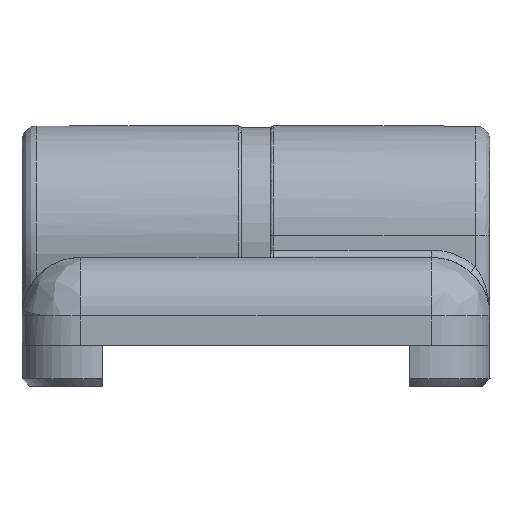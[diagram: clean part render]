
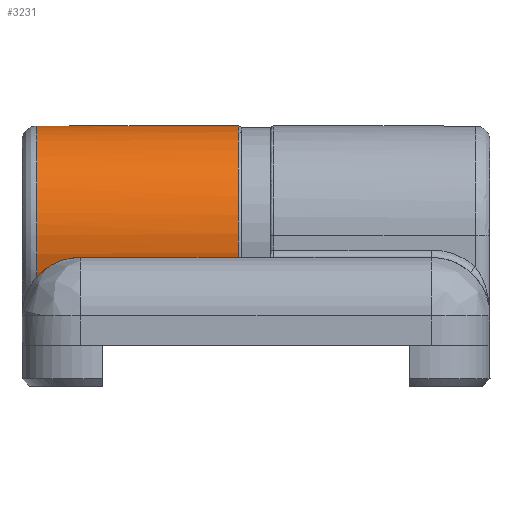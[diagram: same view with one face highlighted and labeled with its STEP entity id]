
A CAD part, left-side view. The second image highlights one B-rep face of the part: STEP entity #3231.
In plain terms, the highlighted cylindrical face has radius 7.5 mm (diameter 15 mm), a partial arc.
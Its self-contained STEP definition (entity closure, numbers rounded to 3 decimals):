
#244 = DIRECTION ( 'NONE',  ( 0., 0., 1. ) ) ;
#375 = CARTESIAN_POINT ( 'NONE',  ( 6.667, -66.151, -14.778 ) ) ;
#386 = CARTESIAN_POINT ( 'NONE',  ( -5.061, -74.51, -14.778 ) ) ;
#422 = CARTESIAN_POINT ( 'NONE',  ( -1.215, -78.928, -15.256 ) ) ;
#760 = VERTEX_POINT ( 'NONE', #4417 ) ;
#1127 = CARTESIAN_POINT ( 'NONE',  ( -5.442, -72.148, -14.778 ) ) ;
#1155 = VERTEX_POINT ( 'NONE', #1801 ) ;
#1162 = CARTESIAN_POINT ( 'NONE',  ( -5.439, -72.421, -14.778 ) ) ;
#1192 = CARTESIAN_POINT ( 'NONE',  ( 4.021, -64.843, -14.778 ) ) ;
#1205 = ORIENTED_EDGE ( 'NONE', *, *, #3482, .T. ) ;
#1206 = CARTESIAN_POINT ( 'NONE',  ( -4.993, -74.705, -14.778 ) ) ;
#1234 = CARTESIAN_POINT ( 'NONE',  ( 0.296, -79.446, -15.511 ) ) ;
#1635 = DIRECTION ( 'NONE',  ( 0., 0., -1. ) ) ;
#1801 = CARTESIAN_POINT ( 'NONE',  ( 9.558, -72.148, -0.978 ) ) ;
#1811 = AXIS2_PLACEMENT_3D ( 'NONE', #5293, #244, #4774 ) ;
#1864 = B_SPLINE_CURVE_WITH_KNOTS ( 'NONE', 3,
 ( #1127, #9087, #1162, #6682, #1967, #7497, #2743, #8282, #3565, #9125, #4333, #9884, #5114, #386, #5916, #1206, #6716, #2001, #7534, #2779, #8319, #3596, #9169, #4374, #9913, #5148, #422, #5953, #1234, #6763, #2033, #7566, #2817 ),
 .UNSPECIFIED., .F., .F.,
 ( 4, 1, 1, 1, 1, 1, 1, 1, 1, 1, 1, 1, 1, 1, 1, 1, 1, 1, 1, 1, 1, 1, 1, 1, 1, 1, 1, 1, 1, 1, 4 ),
 ( 0., 0.024, 0.046, 0.068, 0.088, 0.107, 0.125, 0.142, 0.157, 0.171, 0.184, 0.196, 0.207, 0.216, 0.224, 0.232, 0.237, 0.242, 0.245, 0.248, 0.249, 0.328, 0.411, 0.498, 0.616, 0.748, 0.807, 0.874, 0.907, 0.949, 1. ),
 .UNSPECIFIED. ) ;
#1868 = CARTESIAN_POINT ( 'NONE',  ( 1.858, -79.645, -15.778 ) ) ;
#1967 = CARTESIAN_POINT ( 'NONE',  ( -5.402, -72.933, -14.778 ) ) ;
#1990 = CARTESIAN_POINT ( 'NONE',  ( 1.076, -64.648, -14.778 ) ) ;
#2001 = CARTESIAN_POINT ( 'NONE',  ( -4.941, -74.845, -14.778 ) ) ;
#2033 = CARTESIAN_POINT ( 'NONE',  ( 1.304, -79.618, -15.683 ) ) ;
#2225 = CARTESIAN_POINT ( 'NONE',  ( -5.442, -72.148, -14.778 ) ) ;
#2391 = EDGE_LOOP ( 'NONE', ( #7451, #5454, #3341, #1205, #4293 ) ) ;
#2405 = AXIS2_PLACEMENT_3D ( 'NONE', #6340, #1635, #7163 ) ;
#2732 = CARTESIAN_POINT ( 'NONE',  ( 9.558, -72.148, -14.778 ) ) ;
#2743 = CARTESIAN_POINT ( 'NONE',  ( -5.34, -73.386, -14.778 ) ) ;
#2767 = CARTESIAN_POINT ( 'NONE',  ( -1.719, -65.595, -14.778 ) ) ;
#2779 = CARTESIAN_POINT ( 'NONE',  ( -4.906, -74.932, -14.778 ) ) ;
#2817 = CARTESIAN_POINT ( 'NONE',  ( 1.858, -79.645, -15.778 ) ) ;
#2871 = VECTOR ( 'NONE', #10029, 1000. ) ;
#3231 = ADVANCED_FACE ( 'NONE', ( #3878 ), #9952, .T. ) ;
#3341 = ORIENTED_EDGE ( 'NONE', *, *, #6442, .T. ) ;
#3482 = EDGE_CURVE ( 'NONE', #1155, #7758, #6584, .T. ) ;
#3552 = CARTESIAN_POINT ( 'NONE',  ( 9.558, -71.166, -14.778 ) ) ;
#3565 = CARTESIAN_POINT ( 'NONE',  ( -5.263, -73.779, -14.778 ) ) ;
#3585 = CARTESIAN_POINT ( 'NONE',  ( -3.94, -67.539, -14.778 ) ) ;
#3596 = CARTESIAN_POINT ( 'NONE',  ( -4.776, -75.253, -14.778 ) ) ;
#3878 = FACE_OUTER_BOUND ( 'NONE', #2391, .T. ) ;
#4293 = ORIENTED_EDGE ( 'NONE', *, *, #7991, .T. ) ;
#4323 = CARTESIAN_POINT ( 'NONE',  ( 9.363, -70.185, -14.778 ) ) ;
#4333 = CARTESIAN_POINT ( 'NONE',  ( -5.18, -74.115, -14.778 ) ) ;
#4362 = CARTESIAN_POINT ( 'NONE',  ( -5.247, -70.185, -14.778 ) ) ;
#4374 = CARTESIAN_POINT ( 'NONE',  ( -3.977, -76.638, -14.845 ) ) ;
#4417 = CARTESIAN_POINT ( 'NONE',  ( 1.858, -79.645, -15.778 ) ) ;
#4774 = DIRECTION ( 'NONE',  ( 1., 0., 0. ) ) ;
#5023 = CARTESIAN_POINT ( 'NONE',  ( 1.858, -79.645, -0.978 ) ) ;
#5104 = CARTESIAN_POINT ( 'NONE',  ( 8.055, -67.539, -14.778 ) ) ;
#5114 = CARTESIAN_POINT ( 'NONE',  ( -5.099, -74.393, -14.778 ) ) ;
#5142 = CARTESIAN_POINT ( 'NONE',  ( -5.442, -72.148, -14.778 ) ) ;
#5148 = CARTESIAN_POINT ( 'NONE',  ( -2.26, -78.338, -15.087 ) ) ;
#5257 = VERTEX_POINT ( 'NONE', #9027 ) ;
#5293 = CARTESIAN_POINT ( 'NONE',  ( 2.058, -72.148, 16.222 ) ) ;
#5454 = ORIENTED_EDGE ( 'NONE', *, *, #7591, .T. ) ;
#5906 = CARTESIAN_POINT ( 'NONE',  ( 5.835, -65.595, -14.778 ) ) ;
#5916 = CARTESIAN_POINT ( 'NONE',  ( -5.025, -74.614, -14.778 ) ) ;
#5953 = CARTESIAN_POINT ( 'NONE',  ( -0.29, -79.283, -15.412 ) ) ;
#6340 = CARTESIAN_POINT ( 'NONE',  ( 2.058, -72.148, -0.978 ) ) ;
#6442 = EDGE_CURVE ( 'NONE', #5257, #1155, #9007, .T. ) ;
#6584 = LINE ( 'NONE', #7479, #2871 ) ;
#6682 = CARTESIAN_POINT ( 'NONE',  ( -5.424, -72.684, -14.778 ) ) ;
#6709 = CARTESIAN_POINT ( 'NONE',  ( 3.04, -64.648, -14.778 ) ) ;
#6716 = CARTESIAN_POINT ( 'NONE',  ( -4.965, -74.781, -14.778 ) ) ;
#6763 = CARTESIAN_POINT ( 'NONE',  ( 0.826, -79.55, -15.602 ) ) ;
#7163 = DIRECTION ( 'NONE',  ( 1., 0., 0. ) ) ;
#7411 = B_SPLINE_CURVE_WITH_KNOTS ( 'NONE', 1,
 ( #1868, #5023 ),
 .UNSPECIFIED., .F., .F.,
 ( 2, 2 ),
 ( 0., 1. ),
 .UNSPECIFIED. ) ;
#7451 = ORIENTED_EDGE ( 'NONE', *, *, #7669, .T. ) ;
#7479 = CARTESIAN_POINT ( 'NONE',  ( 9.558, -72.148, 16.222 ) ) ;
#7497 = CARTESIAN_POINT ( 'NONE',  ( -5.374, -73.167, -14.778 ) ) ;
#7524 = CARTESIAN_POINT ( 'NONE',  ( 0.095, -64.843, -14.778 ) ) ;
#7534 = CARTESIAN_POINT ( 'NONE',  ( -4.921, -74.895, -14.778 ) ) ;
#7566 = CARTESIAN_POINT ( 'NONE',  ( 1.661, -79.636, -15.744 ) ) ;
#7591 = EDGE_CURVE ( 'NONE', #760, #5257, #7411, .T. ) ;
#7669 = EDGE_CURVE ( 'NONE', #9402, #760, #1864, .T. ) ;
#7758 = VERTEX_POINT ( 'NONE', #9315 ) ;
#7991 = EDGE_CURVE ( 'NONE', #7758, #9402, #8963, .T. ) ;
#8282 = CARTESIAN_POINT ( 'NONE',  ( -5.303, -73.59, -14.778 ) ) ;
#8307 = CARTESIAN_POINT ( 'NONE',  ( -2.551, -66.151, -14.778 ) ) ;
#8319 = CARTESIAN_POINT ( 'NONE',  ( -4.896, -74.956, -14.778 ) ) ;
#8963 = B_SPLINE_CURVE_WITH_KNOTS ( 'NONE', 3,
 ( #2732, #3552, #4323, #9880, #5104, #375, #5906, #1192, #6709, #1990, #7524, #2767, #8307, #3585, #9156, #4362, #9907, #5142 ),
 .UNSPECIFIED., .F., .F.,
 ( 4, 2, 2, 2, 2, 2, 2, 2, 4 ),
 ( 0., 0.125, 0.25, 0.375, 0.5, 0.625, 0.75, 0.875, 1. ),
 .UNSPECIFIED. ) ;
#9007 = CIRCLE ( 'NONE', #2405, 7.5 ) ;
#9027 = CARTESIAN_POINT ( 'NONE',  ( 1.858, -79.645, -0.978 ) ) ;
#9087 = CARTESIAN_POINT ( 'NONE',  ( -5.441, -72.241, -14.778 ) ) ;
#9125 = CARTESIAN_POINT ( 'NONE',  ( -5.222, -73.954, -14.778 ) ) ;
#9156 = CARTESIAN_POINT ( 'NONE',  ( -4.496, -68.371, -14.778 ) ) ;
#9169 = CARTESIAN_POINT ( 'NONE',  ( -4.501, -75.825, -14.793 ) ) ;
#9315 = CARTESIAN_POINT ( 'NONE',  ( 9.558, -72.148, -14.778 ) ) ;
#9402 = VERTEX_POINT ( 'NONE', #2225 ) ;
#9880 = CARTESIAN_POINT ( 'NONE',  ( 8.611, -68.371, -14.778 ) ) ;
#9884 = CARTESIAN_POINT ( 'NONE',  ( -5.139, -74.261, -14.778 ) ) ;
#9907 = CARTESIAN_POINT ( 'NONE',  ( -5.442, -71.166, -14.778 ) ) ;
#9913 = CARTESIAN_POINT ( 'NONE',  ( -3.253, -77.488, -14.938 ) ) ;
#9952 = CYLINDRICAL_SURFACE ( 'NONE', #1811, 7.5 ) ;
#10029 = DIRECTION ( 'NONE',  ( 0., 0., -1. ) ) ;
